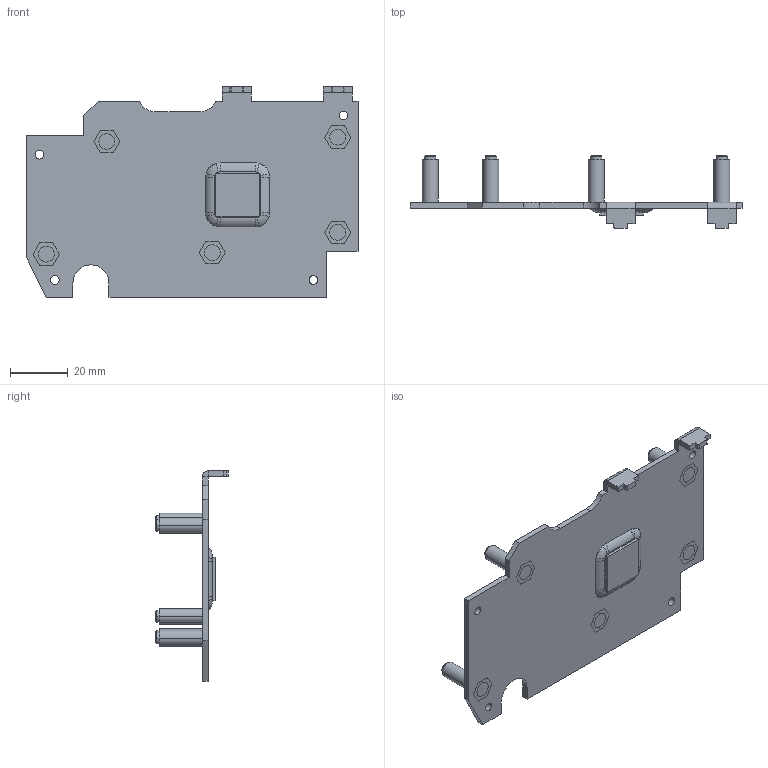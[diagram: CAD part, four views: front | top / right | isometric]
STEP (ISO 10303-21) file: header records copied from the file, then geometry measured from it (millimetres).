
FILE_DESCRIPTION((''),'2;1');
FILE_NAME('HEAT_SPREADER_TOP_SOC_ASSY_ASM','2020-08-21T',('G6003023'),(''),'PRO/ENGINEER BY PARAMETRIC TECHNOLOGY CORPORATION, 2013150','PRO/ENGINEER BY PARAMETRIC TECHNOLOGY CORPORATION, 2013150','');
FILE_SCHEMA(('CONFIG_CONTROL_DESIGN'));
Length unit declared in the file: millimetre
Products named in the file (4): HEAT_SPREADER_TOP_SOC; STAND-OFF-M3-02; THERMAL-PAD-SOC-CUP-1-K5; HEAT_SPREADER_TOP_SOC_ASSY_ASM
Assembly tree (7 placements, depth 2):
  HEAT_SPREADER_TOP_SOC_ASSY_ASM
    HEAT_SPREADER_TOP_SOC
    STAND-OFF-M3-02  x5
    THERMAL-PAD-SOC-CUP-1-K5
Bounding box: 115 x 25.2 x 73 mm (x, y, z)
Volume: 16455.7 mm3; surface area: 18912.2 mm2
Topology: 7 solids, 7 shells, 240 faces, 562 edges, 358 vertices
Faces by surface type: plane 113, cylinder 89, bspline 28, cone 10
Entity records: 5819 total; most frequent: CARTESIAN_POINT 2172, ORIENTED_EDGE 756, DIRECTION 704, EDGE_CURVE 378, AXIS2_PLACEMENT_3D 251, VERTEX_POINT 238, VECTOR 202, LINE 202
